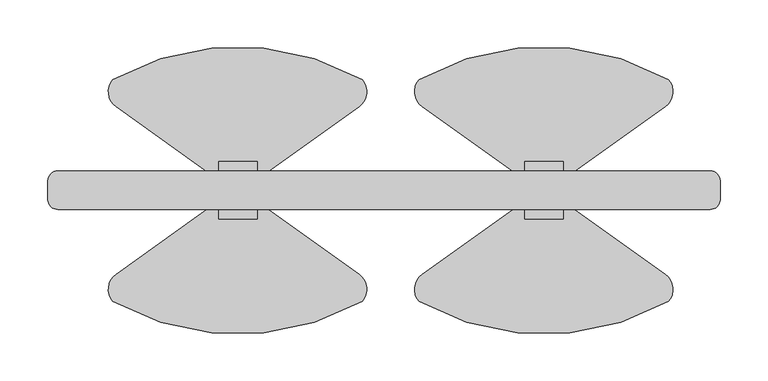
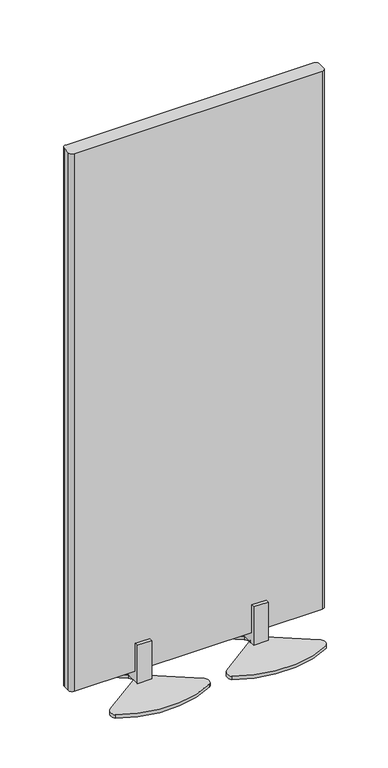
"""IFC4 building model written with IfcOpenShell, lengths in millimetres: furniture geometry, Divisor - COLAB - DA 0716 : Divisor - COLAB - DA 0716."""

from ifc_helpers import new_model, si_unit, point, frame, frame_2d, origin, origin_with_axes, place, context, project, spatial, polyline, circle_curve, trimmed, segment, composite_curve, outline, extrude, source, transform, mapped, element, save


def furniture_b8cf2368(model_context):
    return source(origin(), model_context, "Body", "SweptSolid", [
        extrude(outline(polyline([(120.0, 119.999999), (130.0, 119.999999), (130.0, 39.999999), (170.0, 39.999999), (170.0, 119.999999), (180.0, 119.999999), (180.0, 9.0), (120.0, 9.0), (120.0, 119.999999)])), frame((497.3325, 0.0, 0.0), z_axis=(1.0, 0.0, 0.0), x_axis=(0.0, 1.0, 0.0)), (0.0, 0.0, 1.0), 40.0000021),
        extrude(outline(polyline([(120.0, 119.999999), (130.0, 119.999999), (130.0, 39.999999), (170.0, 39.999999), (170.0, 119.999999), (180.0, 119.999999), (180.0, 9.0), (120.0, 9.0), (120.0, 119.999999)])), frame((178.0625, 0.0, 0.0), z_axis=(1.0, 0.0, 0.0), x_axis=(0.0, 1.0, 0.0)), (0.0, 0.0, 1.0), 40.0000021),
        extrude(outline(composite_curve([segment(polyline([(0.0, 140.0109238), (0.0, 160.0327804)]), True, "CONTINUOUS"), segment(trimmed(circle_curve(frame_2d((10.0109283, 160.0327804)), 10.0109283), [point((0.0, 160.0327804))], [point((10.0109283, 170.0437087))], False, "CARTESIAN"), True, "CONTINUOUS"), segment(polyline([(10.0109283, 170.0437087), (690.7590717, 170.0437087)]), True, "CONTINUOUS"), segment(trimmed(circle_curve(frame_2d((690.7590717, 160.0327804)), 10.0109283), [point((690.7590717, 170.0437087))], [point((700.77, 160.0327804))], False, "CARTESIAN"), True, "CONTINUOUS"), segment(polyline([(700.77, 160.0327804), (700.77, 140.0109238)]), True, "CONTINUOUS"), segment(trimmed(circle_curve(frame_2d((690.7590717, 140.0109238)), 10.0109283), [point((700.77, 140.0109238))], [point((690.7590717, 129.9999955))], False, "CARTESIAN"), True, "CONTINUOUS"), segment(polyline([(690.7590717, 129.9999955), (10.0109283, 129.9999955)]), True, "CONTINUOUS"), segment(trimmed(circle_curve(frame_2d((10.0109283, 140.0109238)), 10.0109283), [point((10.0109283, 129.9999955))], [point((0.0, 140.0109238))], False, "CARTESIAN"), True, "CONTINUOUS")], self_intersect=False)), frame((0.0, 0.0, 40.0000021), z_axis=(0.0, 0.0, 1.0), x_axis=(1.0, 0.0, 0.0)), (0.0, 0.0, 1.0), 1559.9999981),
        extrude(outline(composite_curve([segment(trimmed(circle_curve(frame_2d((487.2919984, 150.0)), 14.8788334), [point((495.936514, 137.8900027))], [point((495.936514, 162.1099973))], True, "CARTESIAN"), True, "CONTINUOUS"), segment(polyline([(495.936514, 162.1099973), (390.3260356, 237.4982406)]), True, "CONTINUOUS"), segment(trimmed(circle_curve(frame_2d((401.4625605, 253.0992637)), 19.1680492), [point((390.3260356, 237.4982406))], [point((387.0885175, 265.779997))], False, "CARTESIAN"), True, "CONTINUOUS"), segment(trimmed(circle_curve(frame_2d((516.9725175, 36.3988773)), 263.601122), [point((387.0885175, 265.779997))], [point((646.8565175, 265.779997))], False, "CARTESIAN"), True, "CONTINUOUS"), segment(trimmed(circle_curve(frame_2d((632.4824745, 253.0992637)), 19.1680492), [point((646.8565175, 265.779997))], [point((643.6188597, 237.4981408))], False, "CARTESIAN"), True, "CONTINUOUS"), segment(polyline([(643.6188597, 237.4981408), (538.006629, 162.1100747)]), True, "CONTINUOUS"), segment(trimmed(circle_curve(frame_2d((546.6510361, 150.0)), 14.8788334), [point((538.006629, 162.1100747))], [point((538.006629, 137.8899253))], True, "CARTESIAN"), True, "CONTINUOUS"), segment(polyline([(538.006629, 137.8899253), (643.6188597, 62.5018592)]), True, "CONTINUOUS"), segment(trimmed(circle_curve(frame_2d((632.4824745, 46.9007363)), 19.1680492), [point((643.6188597, 62.5018592))], [point((646.8565175, 34.220003))], False, "CARTESIAN"), True, "CONTINUOUS"), segment(trimmed(circle_curve(frame_2d((516.9725175, 263.6011227)), 263.601122), [point((646.8565175, 34.220003))], [point((387.0885175, 34.220003))], False, "CARTESIAN"), True, "CONTINUOUS"), segment(trimmed(circle_curve(frame_2d((401.4625605, 46.9007363)), 19.1680492), [point((387.0885175, 34.220003))], [point((390.3260356, 62.5017594))], False, "CARTESIAN"), True, "CONTINUOUS"), segment(polyline([(390.3260356, 62.5017594), (495.936514, 137.8900027)]), True, "CONTINUOUS")], self_intersect=False)), origin_with_axes(), (0.0, 0.0, 1.0), 9.0),
        extrude(outline(composite_curve([segment(trimmed(circle_curve(frame_2d((168.0179809, 150.0)), 14.8788334), [point((176.6624965, 137.8900027))], [point((176.6624965, 162.1099973))], True, "CARTESIAN"), True, "CONTINUOUS"), segment(polyline([(176.6624965, 162.1099973), (71.0520181, 237.4982406)]), True, "CONTINUOUS"), segment(trimmed(circle_curve(frame_2d((82.188543, 253.0992637)), 19.1680492), [point((71.0520181, 237.4982406))], [point((67.8145, 265.779997))], False, "CARTESIAN"), True, "CONTINUOUS"), segment(trimmed(circle_curve(frame_2d((197.6985, 36.3988773)), 263.601122), [point((67.8145, 265.779997))], [point((327.5825, 265.779997))], False, "CARTESIAN"), True, "CONTINUOUS"), segment(trimmed(circle_curve(frame_2d((313.208457, 253.0992637)), 19.1680492), [point((327.5825, 265.779997))], [point((324.3448422, 237.4981408))], False, "CARTESIAN"), True, "CONTINUOUS"), segment(polyline([(324.3448422, 237.4981408), (218.7326115, 162.1100747)]), True, "CONTINUOUS"), segment(trimmed(circle_curve(frame_2d((227.3770186, 150.0)), 14.8788334), [point((218.7326115, 162.1100747))], [point((218.7326115, 137.8899253))], True, "CARTESIAN"), True, "CONTINUOUS"), segment(polyline([(218.7326115, 137.8899253), (324.3448422, 62.5018592)]), True, "CONTINUOUS"), segment(trimmed(circle_curve(frame_2d((313.208457, 46.9007363)), 19.1680492), [point((324.3448422, 62.5018592))], [point((327.5825, 34.220003))], False, "CARTESIAN"), True, "CONTINUOUS"), segment(trimmed(circle_curve(frame_2d((197.6985, 263.6011227)), 263.601122), [point((327.5825, 34.220003))], [point((67.8145, 34.220003))], False, "CARTESIAN"), True, "CONTINUOUS"), segment(trimmed(circle_curve(frame_2d((82.188543, 46.9007363)), 19.1680492), [point((67.8145, 34.220003))], [point((71.0520181, 62.5017594))], False, "CARTESIAN"), True, "CONTINUOUS"), segment(polyline([(71.0520181, 62.5017594), (176.6624965, 137.8900027)]), True, "CONTINUOUS")], self_intersect=False)), origin_with_axes(), (0.0, 0.0, 1.0), 9.0),
    ])


if __name__ == "__main__":
    model = new_model("IFC4")
    model_context = context("Model", 3, world=origin())
    ifc_project = project(units=[si_unit("LENGTHUNIT", "METRE", prefix="MILLI")], contexts=[model_context])
    site = spatial("IfcSite", under=ifc_project)
    building = spatial("IfcBuilding", under=site)
    placement = place(None, origin())
    furniture_shape = furniture_b8cf2368(model_context)
    element("IfcFurniture", 1, ObjectType="Divisor - COLAB - DA 0716 : Divisor - COLAB - DA 0716", at=placement, inside=building, context=model_context, shape_type="MappedRepresentation", body=[
        mapped(furniture_shape, transform((0.0, 0.0, 0.0), x_axis=(1.0, 0.0, 0.0), y_axis=(0.0, 1.0, 0.0), z_axis=(0.0, 0.0, 1.0))),
    ])
    save(model, "model.ifc")
